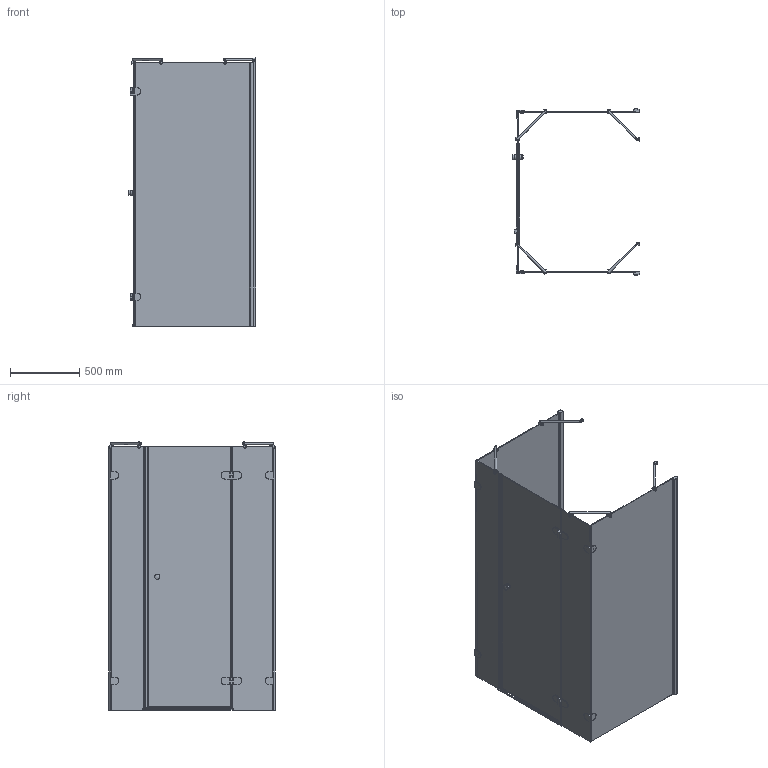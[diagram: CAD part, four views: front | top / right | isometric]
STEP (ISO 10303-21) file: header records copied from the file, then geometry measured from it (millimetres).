
FILE_DESCRIPTION(/* description */ (''),/* implementation_level */ '2;1');
FILE_NAME(/* name */ 'E:\Работа\Сергей\Душевые кабинки\! Работа\LUX RECTAN GK-105A\LUX RECTAN GK-105A правая модель\LUX RECTAN GK-105A ПРАВАЯ-3D.stp',/* time_stamp */ '2018-02-25T11:20:22+03:00',/* author */ ('PC'),/* organization */ (''),/* preprocessor_version */ 'ST-DEVELOPER v15.2',/* originating_system */ 'Autodesk Inventor 2014',/* authorisation */ '');
FILE_SCHEMA (('AUTOMOTIVE_DESIGN { 1 0 10303 214 3 1 1 }'));
Length unit declared in the file: millimetre
Products named in the file (1): LUX RECTAN GK-105A ПРАВАЯ-3D
Bounding box: 917 x 1197.24 x 1931.5 mm (x, y, z)
Volume: 37244387.5 mm3; surface area: 11845319 mm2
Topology: 5 solids, 5 shells, 805 faces, 2073 edges, 1316 vertices
Faces by surface type: plane 531, cylinder 228, sphere 16, torus 14, cone 8, bspline 8
Full cylindrical faces by diameter (mm): 8 x8, 11 x8, 12 x6, 15 x4, 18 x8, 20 x8, 26 x2, 38 x4
Entity records: 25055 total; most frequent: CARTESIAN_POINT 5064, DIRECTION 3975, ORIENTED_EDGE 3870, EDGE_CURVE 1935, LINE 1343, VECTOR 1343, AXIS2_PLACEMENT_3D 1316, VERTEX_POINT 1256
